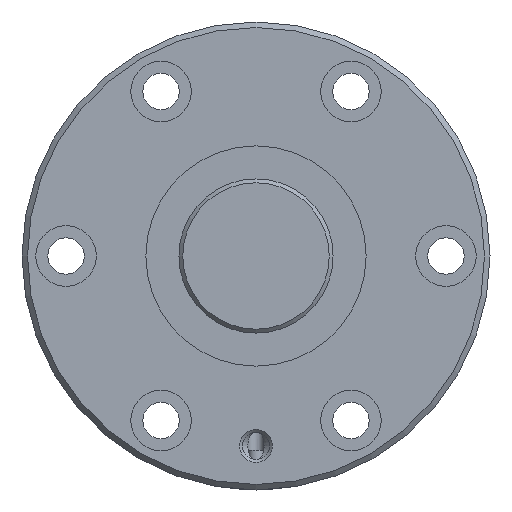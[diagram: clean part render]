
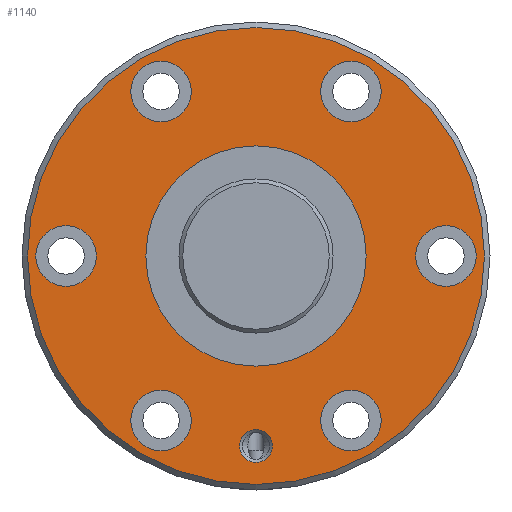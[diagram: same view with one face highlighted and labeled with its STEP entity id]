
A CAD part, left-side view. The second image highlights one B-rep face of the part: STEP entity #1140.
In plain terms, the highlighted planar face has unit normal (-1, 0, 0).
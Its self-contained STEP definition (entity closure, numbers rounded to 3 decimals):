
#200=ORIENTED_EDGE('',*,*,#451,.T.);
#201=ORIENTED_EDGE('',*,*,#452,.T.);
#202=ORIENTED_EDGE('',*,*,#453,.T.);
#203=ORIENTED_EDGE('',*,*,#454,.T.);
#204=ORIENTED_EDGE('',*,*,#455,.T.);
#205=ORIENTED_EDGE('',*,*,#456,.T.);
#206=ORIENTED_EDGE('',*,*,#457,.T.);
#207=ORIENTED_EDGE('',*,*,#458,.T.);
#208=ORIENTED_EDGE('',*,*,#450,.F.);
#450=EDGE_CURVE('',#577,#577,#679,.T.);
#451=EDGE_CURVE('',#578,#578,#680,.T.);
#452=EDGE_CURVE('',#579,#579,#681,.F.);
#453=EDGE_CURVE('',#580,#580,#682,.T.);
#454=EDGE_CURVE('',#581,#581,#683,.T.);
#455=EDGE_CURVE('',#582,#582,#684,.T.);
#456=EDGE_CURVE('',#583,#583,#685,.T.);
#457=EDGE_CURVE('',#584,#584,#686,.T.);
#458=EDGE_CURVE('',#585,#585,#687,.T.);
#577=VERTEX_POINT('',#1931);
#578=VERTEX_POINT('',#1934);
#579=VERTEX_POINT('',#1936);
#580=VERTEX_POINT('',#1938);
#581=VERTEX_POINT('',#1940);
#582=VERTEX_POINT('',#1942);
#583=VERTEX_POINT('',#1944);
#584=VERTEX_POINT('',#1946);
#585=VERTEX_POINT('',#1948);
#679=CIRCLE('',#1268,41.5);
#680=CIRCLE('',#1270,20.);
#681=CIRCLE('',#1271,5.5);
#682=CIRCLE('',#1272,3.);
#683=CIRCLE('',#1273,5.5);
#684=CIRCLE('',#1274,5.5);
#685=CIRCLE('',#1275,5.5);
#686=CIRCLE('',#1276,5.5);
#687=CIRCLE('',#1277,5.5);
#774=EDGE_LOOP('',(#200));
#775=EDGE_LOOP('',(#201));
#776=EDGE_LOOP('',(#202));
#777=EDGE_LOOP('',(#203));
#778=EDGE_LOOP('',(#204));
#779=EDGE_LOOP('',(#205));
#780=EDGE_LOOP('',(#206));
#781=EDGE_LOOP('',(#207));
#782=EDGE_LOOP('',(#208));
#948=FACE_BOUND('',#774,.T.);
#949=FACE_BOUND('',#775,.T.);
#950=FACE_BOUND('',#776,.T.);
#951=FACE_BOUND('',#777,.T.);
#952=FACE_BOUND('',#778,.T.);
#953=FACE_BOUND('',#779,.T.);
#954=FACE_BOUND('',#780,.T.);
#955=FACE_BOUND('',#781,.T.);
#956=FACE_BOUND('',#782,.T.);
#1100=PLANE('',#1269);
#1140=ADVANCED_FACE('',(#948,#949,#950,#951,#952,#953,#954,#955,#956),#1100,
 .T.);
#1268=AXIS2_PLACEMENT_3D('',#1930,#1483,#1484);
#1269=AXIS2_PLACEMENT_3D('',#1932,#1485,#1486);
#1270=AXIS2_PLACEMENT_3D('',#1933,#1487,#1488);
#1271=AXIS2_PLACEMENT_3D('',#1935,#1489,#1490);
#1272=AXIS2_PLACEMENT_3D('',#1937,#1491,#1492);
#1273=AXIS2_PLACEMENT_3D('',#1939,#1493,#1494);
#1274=AXIS2_PLACEMENT_3D('',#1941,#1495,#1496);
#1275=AXIS2_PLACEMENT_3D('',#1943,#1497,#1498);
#1276=AXIS2_PLACEMENT_3D('',#1945,#1499,#1500);
#1277=AXIS2_PLACEMENT_3D('',#1947,#1501,#1502);
#1483=DIRECTION('',(1.,0.,0.));
#1484=DIRECTION('',(0.,0.,-1.));
#1485=DIRECTION('',(-1.,0.,0.));
#1486=DIRECTION('',(0.,0.,1.));
#1487=DIRECTION('',(1.,0.,0.));
#1488=DIRECTION('',(0.,0.,-1.));
#1489=DIRECTION('',(-1.,0.,0.));
#1490=DIRECTION('',(0.,0.,1.));
#1491=DIRECTION('',(1.,0.,0.));
#1492=DIRECTION('',(0.,0.,-1.));
#1493=DIRECTION('',(1.,0.,0.));
#1494=DIRECTION('',(0.,0.,-1.));
#1495=DIRECTION('',(1.,0.,0.));
#1496=DIRECTION('',(0.,0.,-1.));
#1497=DIRECTION('',(1.,0.,0.));
#1498=DIRECTION('',(0.,0.,-1.));
#1499=DIRECTION('',(1.,0.,0.));
#1500=DIRECTION('',(0.,0.,-1.));
#1501=DIRECTION('',(1.,0.,0.));
#1502=DIRECTION('',(0.,0.,-1.));
#1930=CARTESIAN_POINT('',(0.,0.,0.));
#1931=CARTESIAN_POINT('',(0.,0.,-41.5));
#1932=CARTESIAN_POINT('',(0.,41.5,0.));
#1933=CARTESIAN_POINT('',(0.,0.,0.));
#1934=CARTESIAN_POINT('',(0.,0.,-20.));
#1935=CARTESIAN_POINT('',(0.,34.5,0.));
#1936=CARTESIAN_POINT('',(0.,34.5,5.5));
#1937=CARTESIAN_POINT('',(0.,0.,-34.5));
#1938=CARTESIAN_POINT('',(0.,0.,-37.5));
#1939=CARTESIAN_POINT('',(0.,-34.5,0.));
#1940=CARTESIAN_POINT('',(0.,-34.5,-5.5));
#1941=CARTESIAN_POINT('',(0.,17.25,29.878));
#1942=CARTESIAN_POINT('',(0.,17.25,24.378));
#1943=CARTESIAN_POINT('',(0.,-17.25,-29.878));
#1944=CARTESIAN_POINT('',(0.,-17.25,-35.378));
#1945=CARTESIAN_POINT('',(0.,-17.25,29.878));
#1946=CARTESIAN_POINT('',(0.,-17.25,24.378));
#1947=CARTESIAN_POINT('',(0.,17.25,-29.878));
#1948=CARTESIAN_POINT('',(0.,17.25,-35.378));
